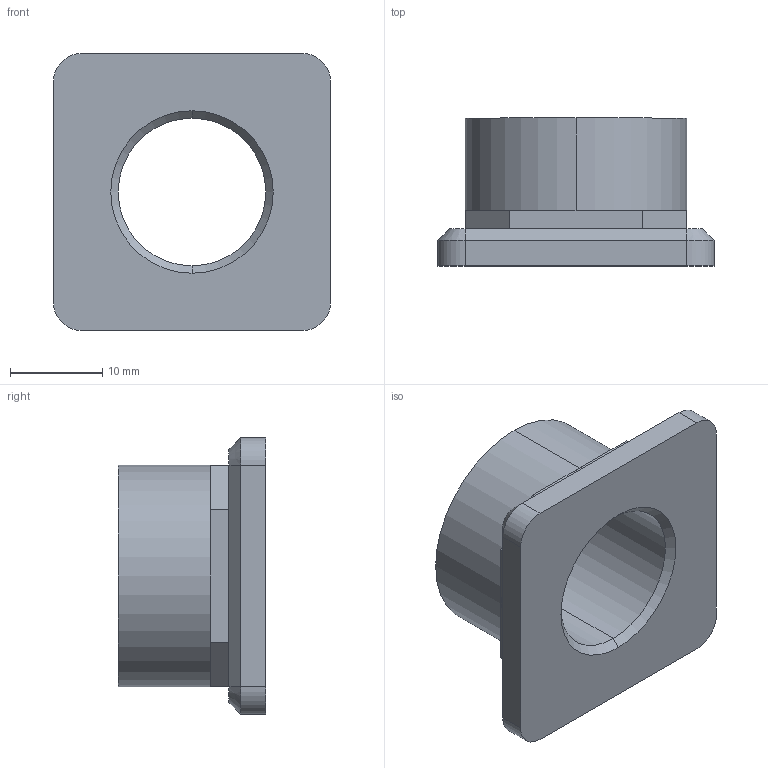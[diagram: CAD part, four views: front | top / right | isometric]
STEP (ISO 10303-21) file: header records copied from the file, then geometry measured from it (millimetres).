
FILE_DESCRIPTION (( 'STEP AP203' ), '1' );
FILE_NAME ('34670.W0033.step', '2017-06-26T08:12:53', ( 'User' ), ( '' ), 'SwSTEP 2.0', 'SolidWorks 2009', '' );
FILE_SCHEMA (( 'CONFIG_CONTROL_DESIGN' ));
Length unit declared in the file: millimetre
Products named in the file (1): 34670.W0033
Bounding box: 30 x 16 x 30 mm (x, y, z)
Volume: 5810.7 mm3; surface area: 3435.9 mm2
Topology: 1 solids, 1 shells, 39 faces, 90 edges, 54 vertices
Faces by surface type: plane 23, cone 8, cylinder 8
Entity records: 1167 total; most frequent: DIRECTION 196, CARTESIAN_POINT 184, ORIENTED_EDGE 180, EDGE_CURVE 90, AXIS2_PLACEMENT_3D 66, VECTOR 64, LINE 64, VERTEX_POINT 54
